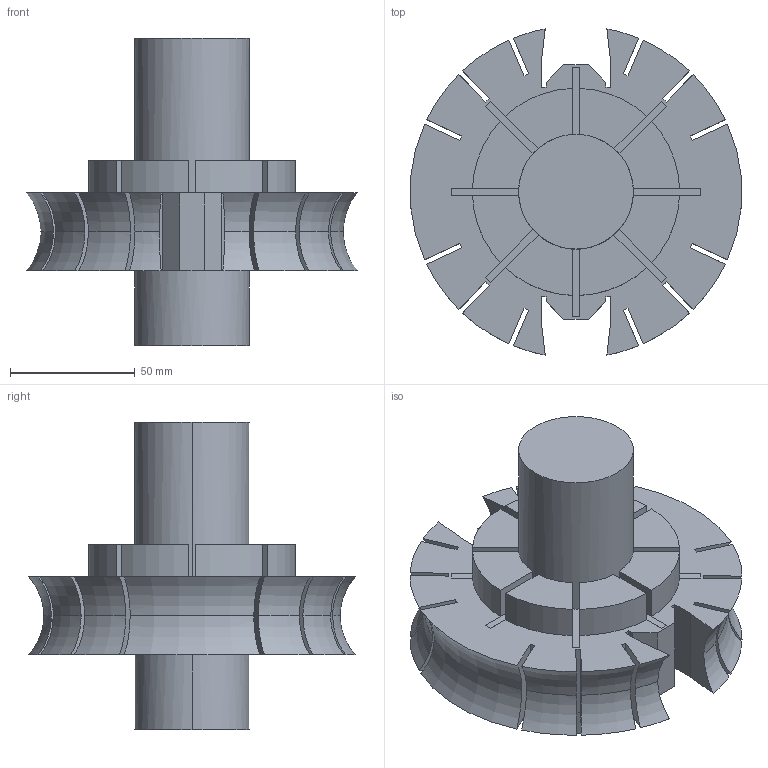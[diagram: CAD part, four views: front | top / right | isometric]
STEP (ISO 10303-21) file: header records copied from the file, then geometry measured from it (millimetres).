
FILE_DESCRIPTION(('STEP AP214'),'1');
FILE_NAME('C:/Users/mashimo/Documents/円弧動エンジン/ボア4.4ｃｍ/TurboCAD/3D/tmp0.STEP','2023-12-27T10:20:09',(' '),(' '),'Spatial InterOp 3D',' ',' ');
FILE_SCHEMA(('automotive_design'));
Length unit declared in the file: millimetre
Products named in the file (1): 1
Bounding box: 132.53 x 130.68 x 123.1 mm (x, y, z)
Volume: 546628.8 mm3; surface area: 68945 mm2
Topology: 1 solids, 1 shells, 142 faces, 414 edges, 276 vertices
Faces by surface type: plane 102, torus 28, cylinder 12
Entity records: 7580 total; most frequent: CARTESIAN_POINT 2681, ORIENTED_EDGE 828, DIRECTION 730, EDGE_CURVE 414, VERTEX_POINT 276, LINE 272, VECTOR 272, AXIS2_PLACEMENT_3D 229
